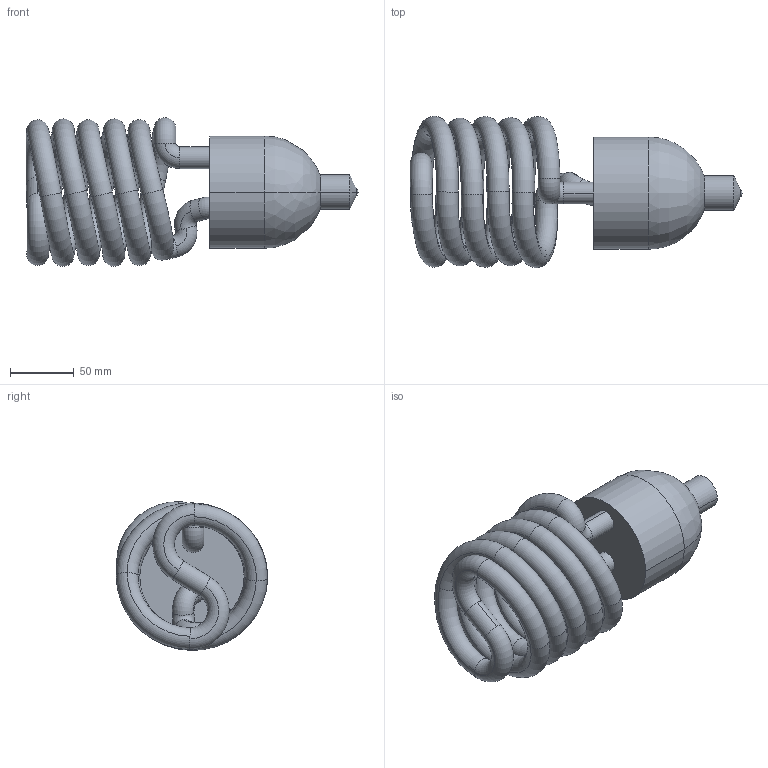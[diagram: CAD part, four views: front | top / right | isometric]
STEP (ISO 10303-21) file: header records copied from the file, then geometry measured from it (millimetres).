
FILE_DESCRIPTION(/* description */ ('(C) Elphel, Inc. 2012. Licensed under CERN OHL v.1.1 or later, see http://ohwr.org/cernohl'),/* implementation_level */ '2;1');
FILE_NAME(/* name */ '0353-25-30',/* time_stamp */ '2012-06-09T15:28:05-06:00',/* author */ (''),/* organization */ ('Elphel, Inc'),/* preprocessor_version */ 'ST-DEVELOPER v12',/* originating_system */ 'VariCAD 2012-1.04; kernel version (20100102)',/* authorisation */ '');
FILE_SCHEMA (('AUTOMOTIVE_DESIGN'));
Length unit declared in the file: millimetre
Products named in the file (1): Part
Bounding box: 260.32 x 118.75 x 116.74 mm (x, y, z)
Volume: 875161.5 mm3; surface area: 129781.8 mm2
Topology: 1 solids, 1 shells, 76 faces, 216 edges, 141 vertices
Faces by surface type: torus 56, cylinder 12, bspline 2, plane 2, cone 2, sphere 2
Entity records: 3518 total; most frequent: CARTESIAN_POINT 835, DIRECTION 562, ORIENTED_EDGE 428, AXIS2_PLACEMENT_3D 274, EDGE_CURVE 214, CIRCLE 198, VERTEX_POINT 141, EDGE_LOOP 79
